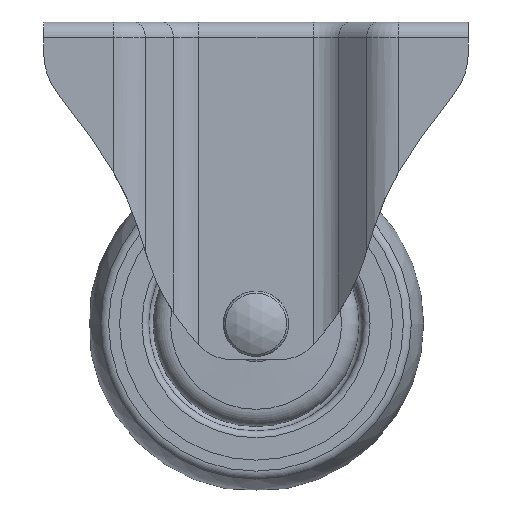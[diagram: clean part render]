
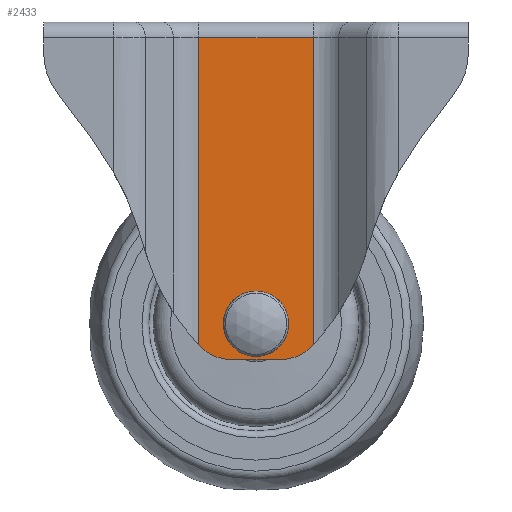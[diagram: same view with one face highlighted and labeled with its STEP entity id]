
A CAD part, front view. The second image highlights one B-rep face of the part: STEP entity #2433.
In plain terms, the highlighted planar face has unit normal (0, -1, 0).
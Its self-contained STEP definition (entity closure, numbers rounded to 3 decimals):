
#954=CARTESIAN_POINT('',(-6.749,-22.999,-30.581));
#955=VERTEX_POINT('',#954);
#956=CARTESIAN_POINT('',(-6.749,-22.999,-28.919));
#957=VERTEX_POINT('',#956);
#958=CARTESIAN_POINT('',(0.,-22.999,-29.75));
#959=DIRECTION('',(0.0,-1.0,0.0));
#960=DIRECTION('',(0.0,0.0,1.0));
#961=AXIS2_PLACEMENT_3D('',#958,#959,#960);
#962=CIRCLE('',#961,6.8);
#963=EDGE_CURVE('',#955,#957,#962,.T.);
#2125=CARTESIAN_POINT('',(-12.858,-22.999,34.25));
#2126=VERTEX_POINT('',#2125);
#2151=CARTESIAN_POINT('',(12.858,-22.999,34.25));
#2152=VERTEX_POINT('',#2151);
#2162=CARTESIAN_POINT('',(-12.858,-22.999,34.25));
#2163=DIRECTION('',(1.0,0.0,0.0));
#2164=VECTOR('',#2163,25.716);
#2165=LINE('',#2162,#2164);
#2166=EDGE_CURVE('',#2126,#2152,#2165,.T.);
#2342=CARTESIAN_POINT('',(12.858,-22.999,-34.477));
#2343=VERTEX_POINT('',#2342);
#2344=CARTESIAN_POINT('',(12.858,-22.999,34.25));
#2345=DIRECTION('',(0.0,0.0,-1.0));
#2346=VECTOR('',#2345,68.727);
#2347=LINE('',#2344,#2346);
#2348=EDGE_CURVE('',#2152,#2343,#2347,.T.);
#2382=CARTESIAN_POINT('',(12.858,-22.999,35.75));
#2383=DIRECTION('',(0.0,-1.0,0.0));
#2384=DIRECTION('',(0.0,0.0,-1.0));
#2385=AXIS2_PLACEMENT_3D('',#2382,#2383,#2384);
#2386=PLANE('',#2385);
#2387=ORIENTED_EDGE('',*,*,#2166,.F.);
#2388=CARTESIAN_POINT('',(-12.858,-22.999,-34.477));
#2389=VERTEX_POINT('',#2388);
#2390=CARTESIAN_POINT('',(-12.858,-22.999,34.25));
#2391=DIRECTION('',(0.0,0.0,-1.0));
#2392=VECTOR('',#2391,68.727);
#2393=LINE('',#2390,#2392);
#2394=EDGE_CURVE('',#2126,#2389,#2393,.T.);
#2395=ORIENTED_EDGE('',*,*,#2394,.T.);
#2396=CARTESIAN_POINT('',(-5.459,-22.999,-37.75));
#2397=VERTEX_POINT('',#2396);
#2398=CARTESIAN_POINT('',(-5.459,-22.999,-27.75));
#2399=DIRECTION('',(0.0,-1.0,0.0));
#2400=DIRECTION('',(1.0,0.0,0.0));
#2401=AXIS2_PLACEMENT_3D('',#2398,#2399,#2400);
#2402=CIRCLE('',#2401,10.0);
#2403=EDGE_CURVE('',#2389,#2397,#2402,.T.);
#2404=ORIENTED_EDGE('',*,*,#2403,.T.);
#2405=CARTESIAN_POINT('',(5.459,-22.999,-37.75));
#2406=VERTEX_POINT('',#2405);
#2407=CARTESIAN_POINT('',(-5.459,-22.999,-37.75));
#2408=DIRECTION('',(1.0,0.0,0.0));
#2409=VECTOR('',#2408,10.918);
#2410=LINE('',#2407,#2409);
#2411=EDGE_CURVE('',#2397,#2406,#2410,.T.);
#2412=ORIENTED_EDGE('',*,*,#2411,.T.);
#2413=CARTESIAN_POINT('',(5.459,-22.999,-27.75));
#2414=DIRECTION('',(0.0,-1.0,0.0));
#2415=DIRECTION('',(1.0,0.0,0.0));
#2416=AXIS2_PLACEMENT_3D('',#2413,#2414,#2415);
#2417=CIRCLE('',#2416,10.0);
#2418=EDGE_CURVE('',#2406,#2343,#2417,.T.);
#2419=ORIENTED_EDGE('',*,*,#2418,.T.);
#2420=ORIENTED_EDGE('',*,*,#2348,.F.);
#2421=EDGE_LOOP('',(#2387,#2395,#2404,#2412,#2419,#2420));
#2422=FACE_OUTER_BOUND('',#2421,.T.);
#2423=ORIENTED_EDGE('',*,*,#963,.F.);
#2424=CARTESIAN_POINT('',(-5.5,-22.999,-29.75));
#2425=DIRECTION('',(0.0,1.0,0.0));
#2426=DIRECTION('',(1.0,0.0,0.0));
#2427=AXIS2_PLACEMENT_3D('',#2424,#2425,#2426);
#2428=CIRCLE('',#2427,1.5);
#2429=EDGE_CURVE('',#955,#957,#2428,.T.);
#2430=ORIENTED_EDGE('',*,*,#2429,.T.);
#2431=EDGE_LOOP('',(#2423,#2430));
#2432=FACE_BOUND('',#2431,.T.);
#2433=ADVANCED_FACE('',(#2422,#2432),#2386,.T.);
